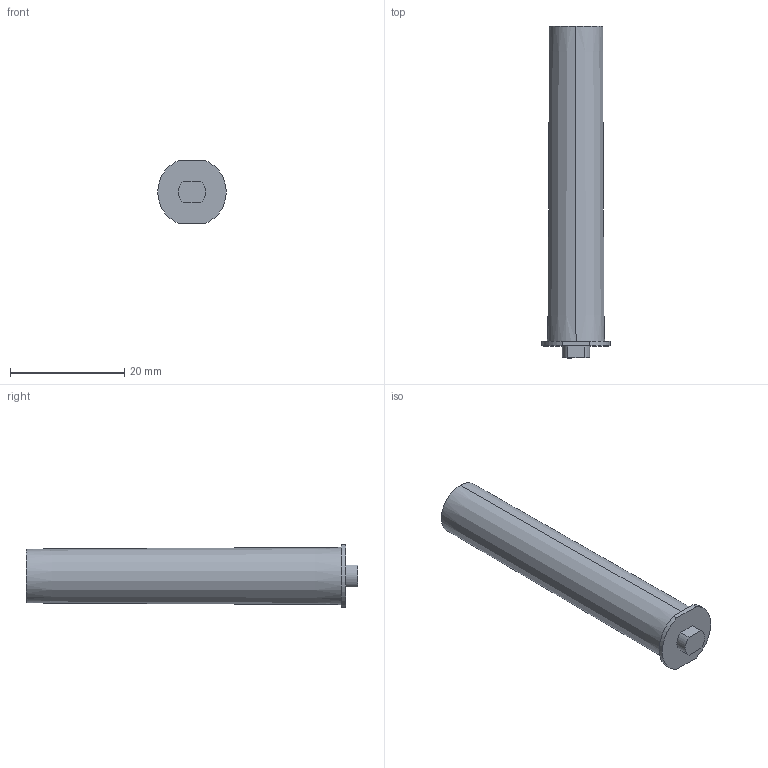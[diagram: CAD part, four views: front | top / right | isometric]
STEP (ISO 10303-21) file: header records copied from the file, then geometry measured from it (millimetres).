
FILE_DESCRIPTION (( 'STEP AP214' ), '1' );
FILE_NAME ('Tipmatic Pin.STEP', '2016-11-03T09:27:28', ( '' ), ( '' ), 'SwSTEP 2.0', 'SolidWorks 2015', '' );
FILE_SCHEMA (( 'AUTOMOTIVE_DESIGN' ));
Length unit declared in the file: millimetre
Products named in the file (1): Tipmatic Pin
Bounding box: 12 x 58.1 x 11 mm (x, y, z)
Volume: 4211.3 mm3; surface area: 1955.7 mm2
Topology: 1 solids, 1 shells, 14 faces, 30 edges, 20 vertices
Faces by surface type: plane 8, cylinder 4, cone 2
Entity records: 420 total; most frequent: DIRECTION 72, CARTESIAN_POINT 65, ORIENTED_EDGE 60, EDGE_CURVE 30, AXIS2_PLACEMENT_3D 27, VERTEX_POINT 20, LINE 18, VECTOR 18
